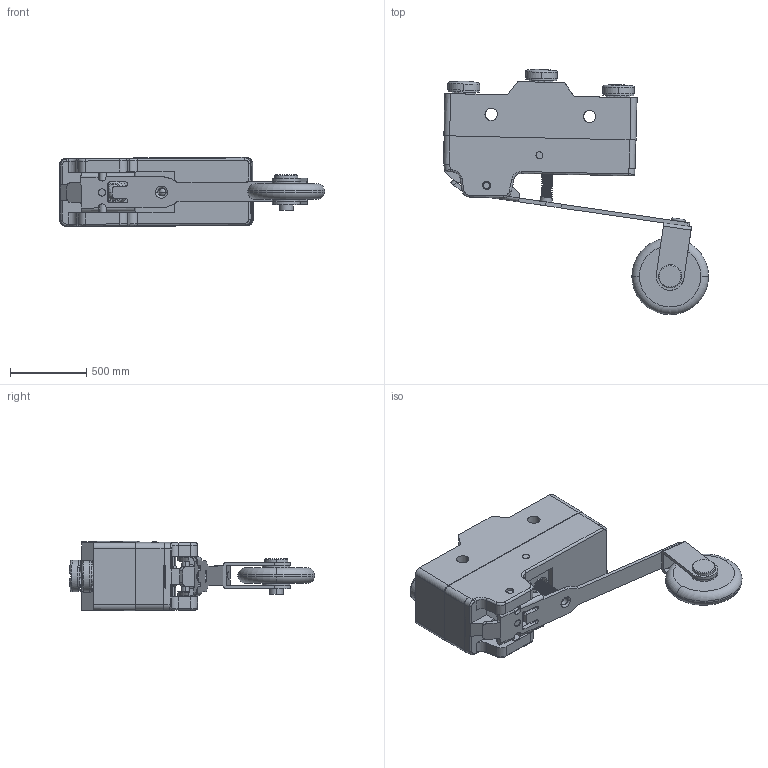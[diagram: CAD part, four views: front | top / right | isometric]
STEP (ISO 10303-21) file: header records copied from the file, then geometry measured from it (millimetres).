
FILE_DESCRIPTION((''),'2;1');
FILE_NAME('1','2016-07-20T',('Administrator'),(''),'PRO/ENGINEER BY PARAMETRIC TECHNOLOGY CORPORATION, 2012360','PRO/ENGINEER BY PARAMETRIC TECHNOLOGY CORPORATION, 2012360','');
FILE_SCHEMA(('CONFIG_CONTROL_DESIGN'));
Length unit declared in the file: inch
Products named in the file (1): 1
Bounding box: 1738.85 x 1609.26 x 454.35 mm (x, y, z)
Volume: 262552048.2 mm3; surface area: 8390120.8 mm2
Topology: 1 solids, 17 shells, 1116 faces, 3016 edges, 1956 vertices
Faces by surface type: cylinder 609, plane 341, bspline 71, torus 58, sphere 19, cone 18
Entity records: 46296 total; most frequent: CARTESIAN_POINT 18587, ORIENTED_EDGE 6024, DIRECTION 5623, EDGE_CURVE 3012, AXIS2_PLACEMENT_3D 2213, VERTEX_POINT 1956, VECTOR 1197, LINE 1197
